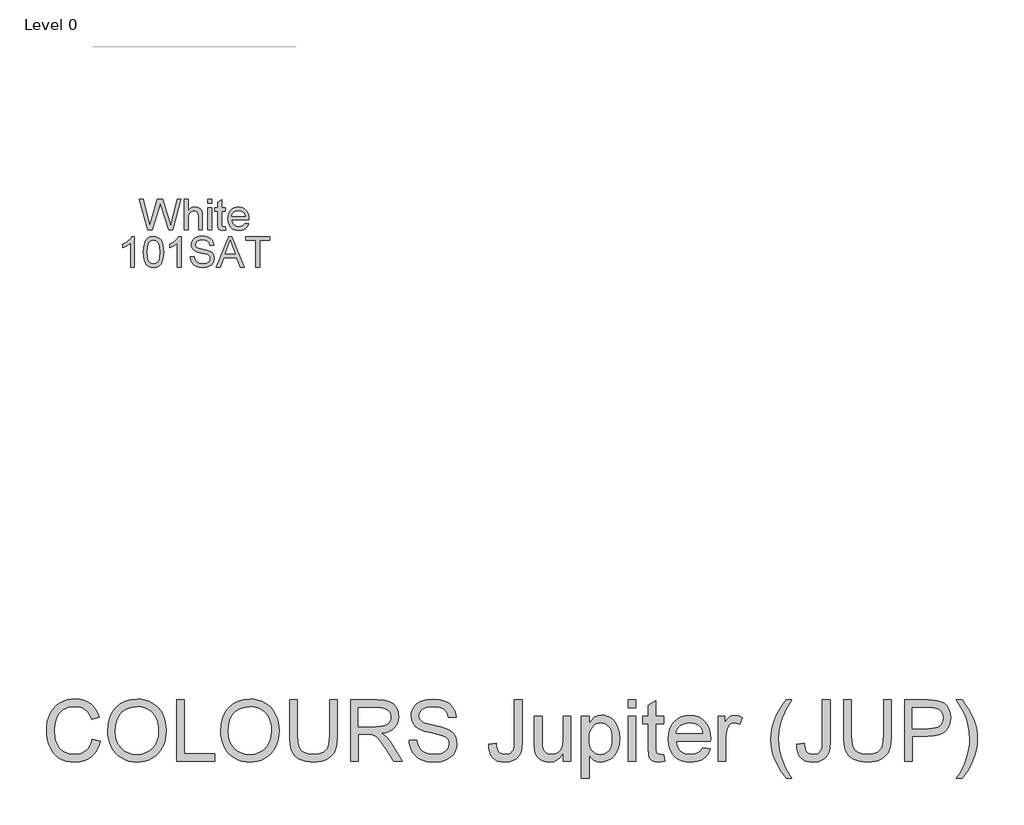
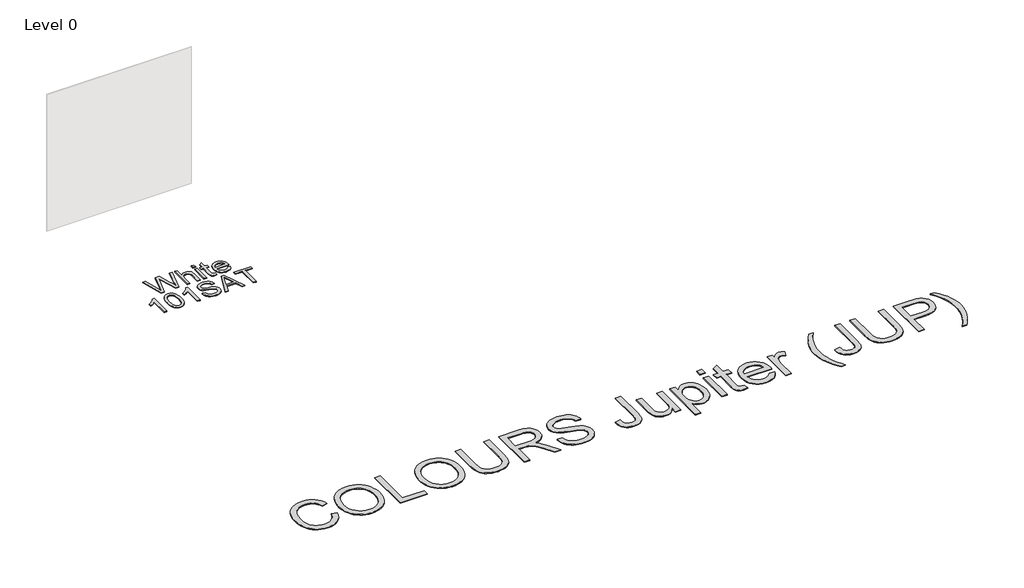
# One storey, part 26 of 37: 2 proxies.
"""IFC4 building model written with IfcOpenShell, lengths in millimetres."""

from ifc_helpers import new_model, si_unit, origin, origin_with_axes, place, context, project, spatial, polyline, outline, extrude, element, save

model = new_model("IFC4")

# Units and contexts
model_context = context("Model", 3, world=origin())
ifc_project = project(units=[si_unit("LENGTHUNIT", "METRE", prefix="MILLI")], contexts=[model_context])

# Site, building, storey
site = spatial("IfcSite", under=ifc_project)
building = spatial("IfcBuilding", under=site)
storey = spatial("IfcBuildingStorey", under=building, Name="Level 0", Elevation=0.0)

# Proxies
placement = place(None, origin())
element("IfcBuildingElementProxy", 1, Name="300mm Arial", ObjectType="300mm Arial", at=placement, inside=storey, context=model_context, shape_type="SweptSolid", body=[
    extrude(outline(polyline([(18090.0044845, -16971.860494), (18007.8196468, -16670.4915635), (18046.6679855, -16670.4915635), (18094.3454921, -16868.5592297), (18109.0607719, -16929.7012173), (18124.8061213, -16875.622564), (18184.5501573, -16670.4915635), (18240.5417969, -16670.4915635), (18283.9518724, -16819.189466), (18302.5483072, -16874.3717653), (18316.2519115, -16929.7012173), (18330.525733, -16870.3250633), (18378.6446979, -16670.4915635), (18417.4930366, -16670.4915635), (18335.2346225, -16971.860494), (18294.9883322, -16971.860494), (18222.7363084, -16739.359073), (18212.6563417, -16706.9118811), (18201.3255763, -16745.9809489), (18135.4746991, -16971.860494), (18090.0044845, -16971.860494)])), origin_with_axes(), (0.0, 0.0, 1.0), 10.0),
    extrude(outline(polyline([(18450.4552634, -16971.860494), (18450.4552634, -16670.4915635), (18488.1263797, -16670.4915635), (18488.1263797, -16781.2976205), (18501.9633412, -16765.7821973), (18517.501757, -16754.6997522), (18534.741627, -16748.0502852), (18553.6829512, -16745.8337961), (18576.4364526, -16748.2526203), (18595.9893807, -16755.5090926), (18611.3852422, -16767.0329961), (18621.6675439, -16782.2541137), (18627.4616854, -16803.1682051), (18629.3930658, -16831.7710302), (18629.3930658, -16971.860494), (18591.7219495, -16971.860494), (18591.7219495, -16835.6705794), (18588.7237113, -16812.0893435), (18579.7289965, -16795.9393239), (18565.2344459, -16786.6135153), (18545.7367001, -16783.5049125), (18529.8166068, -16785.6018398), (18514.8714007, -16791.8926219), (18502.4921716, -16801.7702535), (18494.270009, -16814.6277292), (18489.662287, -16831.7158479), (18488.1263797, -16854.2854083), (18488.1263797, -16971.860494), (18450.4552634, -16971.860494)])), origin_with_axes(), (0.0, 0.0, 1.0), 10.0),
    extrude(outline(polyline([(18681.1908508, -16708.1626798), (18681.1908508, -16670.4915635), (18718.8619671, -16670.4915635), (18718.8619671, -16708.1626798), (18681.1908508, -16708.1626798)])), origin_with_axes(), (0.0, 0.0, 1.0), 10.0),
    extrude(outline(polyline([(18681.1908508, -16971.860494), (18681.1908508, -16750.5426857), (18718.8619671, -16750.5426857), (18718.8619671, -16971.860494), (18681.1908508, -16971.860494)])), origin_with_axes(), (0.0, 0.0, 1.0), 10.0),
    extrude(outline(polyline([(18855.4197637, -16940.4433716), (18860.1286532, -16972.96414), (18831.9488924, -16976.5693835), (18813.8674923, -16975.005885), (18800.3846172, -16970.3153896), (18790.8564735, -16963.0865084), (18784.6392678, -16953.9078526), (18781.2179653, -16938.1441091), (18780.0775311, -16911.1599648), (18780.0775311, -16788.213802), (18751.8241938, -16788.213802), (18751.8241938, -16750.5426857), (18780.0775311, -16750.5426857), (18780.0775311, -16696.758338), (18817.7486474, -16674.6118419), (18817.7486474, -16750.5426857), (18855.4197637, -16750.5426857), (18855.4197637, -16788.213802), (18817.7486474, -16788.213802), (18817.7486474, -16910.0563188), (18819.7352101, -16929.4804881), (18826.1731451, -16936.3598814), (18839.0122267, -16938.8982672), (18855.4197637, -16940.4433716)])), origin_with_axes(), (0.0, 0.0, 1.0), 10.0),
    extrude(outline(polyline([(19048.0427764, -16905.9360404), (19084.9781287, -16910.64493), (19071.6699975, -16938.4752029), (19050.4340093, -16959.2789297), (19021.7484107, -16972.2467701), (18986.0914484, -16976.5693835), (18962.7171461, -16974.7046817), (18941.8904266, -16969.1105761), (18923.61129, -16959.7870668), (18907.8797362, -16946.7341537), (18895.2291941, -16930.3151204), (18886.1930926, -16910.8932503), (18880.7714317, -16888.4685435), (18878.9642114, -16863.0409998), (18880.7898258, -16836.7512327), (18886.266669, -16813.5792656), (18895.394741, -16793.5250983), (18908.1740418, -16776.5887309), (18923.8642089, -16763.133447), (18941.7248797, -16753.5225298), (18961.7560544, -16747.7559796), (18983.9577328, -16745.8337961), (19005.4443406, -16747.751381), (19024.8754077, -16753.5041357), (19042.2509342, -16763.0920602), (19057.57092, -16776.5151545), (19070.0766086, -16793.4147337), (19079.0092433, -16813.4321128), (19084.3688241, -16836.5672917), (19086.1553511, -16862.8202706), (19085.9346219, -16872.9738137), (18916.6353277, -16872.9738137), (18923.156036, -16901.1719686), (18938.3035772, -16921.902119), (18960.1649648, -16934.6492302), (18986.8272124, -16938.8982672), (19006.8767811, -16936.9300985), (19023.7625647, -16931.0255925), (19037.4845631, -16920.8168672), (19048.0427764, -16905.9360404)]), holes=[polyline([(18916.6353277, -16835.3026974), (19048.4842347, -16835.3026974), (19043.3890691, -16815.4002814), (19033.4010729, -16801.1632482), (19011.4385178, -16787.9194964), (18983.81058, -16783.5049125), (18958.4175253, -16787.0273826), (18937.4206604, -16797.5947929), (18922.8249422, -16814.0667092), (18916.6353277, -16835.3026974)])]), origin_with_axes(), (0.0, 0.0, 1.0), 10.0),
    extrude(outline(polyline([(17958.3763066, -17337.7849475), (17920.7051903, -17337.7849475), (17920.7051903, -17102.9290818), (17885.0206368, -17128.3497277), (17845.3629577, -17147.3692268), (17845.3629577, -17111.7582497), (17874.9498672, -17095.6634124), (17900.5820452, -17076.5151545), (17920.7879638, -17056.1528861), (17934.096095, -17036.4160171), (17958.3763066, -17036.4160171), (17958.3763066, -17337.7849475)])), origin_with_axes(), (0.0, 0.0, 1.0), 10.0),
    extrude(outline(polyline([(18047.8452079, -17189.5285035), (18050.6135199, -17141.2899768), (18058.9184559, -17102.8187172), (18072.6772425, -17073.5261133), (18091.8071063, -17052.8235541), (18116.4460029, -17040.5179013), (18146.7318882, -17036.4160171), (18169.9452421, -17038.8440382), (18190.7305748, -17046.1281017), (18208.1129991, -17057.983099), (18221.1176276, -17074.1239216), (18230.9400769, -17094.4126136), (18238.7759634, -17118.7112194), (18243.9079172, -17149.5673217), (18245.6185685, -17189.5285035), (18242.8778476, -17237.4911186), (18234.655685, -17275.8704077), (18220.9796718, -17305.1906027), (18201.8773992, -17325.9759355), (18177.1833203, -17338.3643617), (18146.7318882, -17342.4938371), (18125.9833436, -17340.7004123), (18107.5892439, -17335.3201381), (18091.5495889, -17326.3530145), (18077.8643787, -17313.7990414), (18064.7309914, -17291.1053209), (18055.3500006, -17262.828991), (18049.721406, -17228.9700519), (18047.8452079, -17189.5285035)]), holes=[polyline([(18085.5163242, -17189.4549271), (18089.9309081, -17248.7115194), (18095.449138, -17268.9795181), (18103.1746599, -17283.0073184), (18122.8931349, -17299.3688702), (18146.7318882, -17304.8227207), (18170.5706415, -17299.3504761), (18190.2891164, -17282.933742), (18198.0146383, -17268.8829491), (18203.5328682, -17248.6195489), (18207.9474522, -17189.4549271), (18203.680021, -17131.5319069), (18198.3457321, -17111.3305869), (18190.8777276, -17096.9693935), (18171.1960409, -17079.8076984), (18146.2904298, -17074.0871334), (18122.7091939, -17079.1271167), (18103.7632711, -17094.2470667), (18095.7802318, -17109.8820515), (18090.0780609, -17130.9616898), (18085.5163242, -17189.4549271)])]), origin_with_axes(), (0.0, 0.0, 1.0), 10.0),
    extrude(outline(polyline([(18419.8474814, -17337.7849475), (18382.1763651, -17337.7849475), (18382.1763651, -17102.9290818), (18346.4918116, -17128.3497277), (18306.8341325, -17147.3692268), (18306.8341325, -17111.7582497), (18336.4210419, -17095.6634124), (18362.0532199, -17076.5151545), (18382.2591385, -17056.1528861), (18395.5672697, -17036.4160171), (18419.8474814, -17036.4160171), (18419.8474814, -17337.7849475)])), origin_with_axes(), (0.0, 0.0, 1.0), 10.0),
    extrude(outline(polyline([(18509.3163826, -17234.1893777), (18546.9874989, -17234.1893777), (18551.3101124, -17255.0942721), (18559.1276048, -17271.8972822), (18571.3228929, -17285.2330045), (18588.7788936, -17295.7360355), (18610.1160493, -17302.5510494), (18633.9548026, -17304.8227207), (18654.9424704, -17303.1028724), (18673.3181761, -17297.9433274), (18688.2081998, -17289.7763471), (18698.7388219, -17279.0341929), (18705.0020129, -17266.700949), (18707.0897432, -17253.7606998), (18705.5262447, -17241.1515444), (18700.8357493, -17230.2530403), (18691.3076056, -17220.9548229), (18675.2311624, -17213.1465276), (18620.379957, -17198.7623415), (18584.3735067, -17189.2433949), (18561.3348967, -17180.1843008), (18542.582112, -17167.510766), (18529.292375, -17152.1516928), (18521.373715, -17134.4381747), (18518.7341617, -17114.7013056), (18521.9991144, -17092.637583), (18531.7939725, -17072.0637824), (18547.8612187, -17054.6261758), (18569.9433354, -17041.9710352), (18596.4492332, -17034.2731044), (18625.7878223, -17031.7071275), (18657.5728267, -17034.3926661), (18685.3847055, -17042.4492818), (18708.2301774, -17055.7114277), (18725.115961, -17074.013557), (18735.8029329, -17096.2152354), (18740.05197, -17121.1760288), (18702.3808537, -17121.1760288), (18695.4646722, -17098.6984389), (18681.043698, -17082.4748429), (18658.5109258, -17072.6523936), (18627.2593503, -17069.3782438), (18595.2720108, -17072.6156054), (18573.3278498, -17082.3276901), (18560.6359209, -17096.6199056), (18556.405278, -17113.5976597), (18559.4035163, -17128.0738162), (18568.398231, -17139.7172813), (18589.6618104, -17150.1283418), (18629.9081006, -17160.7601314), (18671.4419779, -17170.8584922), (18696.5683182, -17179.669266), (18718.0434296, -17193.3360821), (18733.0254239, -17210.2034716), (18741.8270006, -17230.0874934), (18744.7608595, -17252.8042066), (18741.3855422, -17276.0267576), (18731.2595903, -17297.869751), (18714.796871, -17316.668521), (18692.4112516, -17330.7584014), (18665.4914866, -17339.5599781), (18635.4263306, -17342.4938371), (18598.5185694, -17339.3300519), (18568.1407136, -17329.8386964), (18543.9432754, -17313.9829824), (18525.5767668, -17291.7261217), (18513.7861489, -17264.6132187), (18509.3163826, -17234.1893777)])), origin_with_axes(), (0.0, 0.0, 1.0), 10.0),
    extrude(outline(polyline([(18766.1715916, -17337.7849475), (18886.4690041, -17036.4160171), (18918.5483141, -17036.4160171), (19038.8457265, -17337.7849475), (18999.0408946, -17337.7849475), (18964.5335634, -17243.6071568), (18840.4101783, -17243.6071568), (18805.9764235, -17337.7849475), (18766.1715916, -17337.7849475)]), holes=[polyline([(18854.2425413, -17205.9360404), (18950.7747768, -17205.9360404), (18923.6250856, -17131.8446066), (18902.5086591, -17074.0871334), (18883.7466773, -17125.3698835), (18854.2425413, -17205.9360404)])]), origin_with_axes(), (0.0, 0.0, 1.0), 10.0),
    extrude(outline(polyline([(19154.4342494, -17337.7849475), (19154.4342494, -17074.0871334), (19055.5475691, -17074.0871334), (19055.5475691, -17036.4160171), (19290.992046, -17036.4160171), (19290.992046, -17074.0871334), (19192.1053657, -17074.0871334), (19192.1053657, -17337.7849475), (19154.4342494, -17337.7849475)])), origin_with_axes(), (0.0, 0.0, 1.0), 10.0),
])
element("IfcBuildingElementProxy", 2, Name="600mm Arial", ObjectType="600mm Arial", at=placement, inside=storey, context=model_context, shape_type="SweptSolid", body=[
    extrude(outline(polyline([(17546.3368732, -21986.6175733), (17621.6791058, -22006.0417427), (17606.770688, -22052.8961133), (17586.9142573, -22093.8367808), (17562.1098137, -22128.8637453), (17532.3573574, -22157.9770067), (17498.3282728, -22180.8638653), (17460.6939447, -22197.2116215), (17419.4543731, -22207.0202752), (17374.6095579, -22210.2898264), (17328.6656952, -22207.81582), (17287.2191899, -22200.3938007), (17250.270042, -22188.0237686), (17217.8182515, -22170.7057237), (17189.4177615, -22148.6971834), (17164.622515, -22122.255665), (17143.4325121, -22091.3811685), (17125.8477527, -22056.073694), (17112.0383823, -22017.8599518), (17102.1745463, -21978.266652), (17096.2562447, -21937.2937948), (17094.2834775, -21894.9413801), (17096.5137621, -21849.4987567), (17103.2046159, -21807.0543715), (17114.3560389, -21767.6082246), (17129.9680311, -21731.1603159), (17149.6911045, -21698.3130522), (17173.1757714, -21669.6688404), (17200.4220317, -21645.2276803), (17231.4298853, -21624.9895721), (17265.1462702, -21609.1200625), (17300.518124, -21597.7846985), (17337.5454468, -21590.9834801), (17376.2282386, -21588.7164074), (17419.3210158, -21591.6502663), (17458.8361406, -21600.451843), (17494.7736131, -21615.1211376), (17527.1334331, -21635.6581499), (17555.3821718, -21661.5202542), (17578.9864003, -21692.1648244), (17597.9461186, -21727.5918605), (17612.2613267, -21767.8013626), (17536.9190941, -21785.754004), (17525.0548998, -21756.1257078), (17510.7994725, -21730.810828), (17494.1528122, -21709.8093646), (17475.1149189, -21693.1213176), (17453.5754281, -21680.4063961), (17429.4239751, -21671.3243094), (17402.66056, -21665.8750573), (17373.2851827, -21664.05864), (17339.4860244, -21666.0727939), (17308.5747397, -21672.1152557), (17280.5513287, -21682.1860253), (17255.4157914, -21696.2851027), (17233.485426, -21713.7778916), (17215.0775306, -21734.0297954), (17200.1921054, -21757.0408142), (17188.8291503, -21782.810948), (17174.4265702, -21837.9564591), (17169.6257101, -21894.7942273), (17175.309487, -21964.3975008), (17182.414208, -21995.6674704), (17192.3608174, -22024.5829952), (17205.3102637, -22050.5692597), (17221.4234951, -22073.0514481), (17240.7005116, -22092.0295605), (17263.1413133, -22107.503597), (17287.6560498, -22119.5103456), (17313.1548706, -22128.0865946), (17339.6377757, -22133.232344), (17367.1047652, -22134.9475938), (17399.8600583, -22132.6115431), (17429.9941922, -22125.6033911), (17457.5071669, -22113.9231378), (17482.3989824, -22097.5707831), (17504.0810275, -22076.6199035), (17521.964691, -22051.1440753), (17536.0499729, -22021.1432986), (17546.3368732, -21986.6175733)])), origin_with_axes(), (0.0, 0.0, 1.0), 10.0),
    extrude(outline(polyline([(17697.0213384, -21907.449368), (17702.0429277, -21836.7516456), (17717.1076954, -21774.1657211), (17742.2156415, -21719.6915947), (17758.5358065, -21695.4964557), (17777.3667662, -21673.3292662), (17820.4549449, -21636.3111405), (17869.3740532, -21609.8696221), (17924.1240911, -21594.004711), (17984.7050587, -21588.7164074), (18025.2548516, -21591.1996108), (18063.7628994, -21598.6492212), (18100.2292022, -21611.0652386), (18134.6537599, -21628.4476628), (18166.0708823, -21650.2722622), (18193.5148791, -21676.0148048), (18216.9857504, -21705.6752907), (18236.4834962, -21739.2537198), (18251.8057813, -21775.986737), (18262.7502706, -21815.1109872), (18269.3169642, -21856.6264703), (18271.5058621, -21900.5331865), (18269.2020011, -21945.0193167), (18262.2904181, -21987.0958199), (18250.7711131, -22026.7626961), (18234.6440862, -22064.0199451), (18214.2910148, -22097.8834828), (18190.0935766, -22127.3692247), (18162.0517715, -22152.4771709), (18130.1655995, -22173.2073213), (18095.6904581, -22189.4309173), (18059.8817444, -22201.0192001), (18022.7394584, -22207.9721698), (17984.2636003, -22210.2898264), (17943.0056345, -22207.728448), (17903.9917489, -22200.0443128), (17867.2219435, -22187.2374209), (17832.6962182, -22169.3077721), (17801.3158841, -22146.9497439), (17773.9822518, -22120.8577134), (17750.6953215, -22091.0316806), (17731.4550932, -22057.4716456), (17716.3903255, -22021.5249762), (17705.6297771, -21984.5390401), (17699.1734481, -21946.5138373), (17697.0213384, -21907.449368)]), holes=[polyline([(17772.363571, -21908.185132), (17776.129763, -21958.1343099), (17787.4283387, -22002.4732873), (17806.2592984, -22041.2020644), (17832.6226418, -22074.320641), (17864.6697622, -22100.8449328), (17900.5520523, -22119.7908556), (17940.2695122, -22131.1584092), (17983.8221419, -22134.9475938), (18028.1197326, -22131.121621), (18068.3062421, -22119.6437028), (18104.3816702, -22100.513839), (18136.3460171, -22073.7320298), (18162.5162225, -22039.9144774), (18181.2092264, -21999.6773842), (18192.4250287, -21953.0207501), (18196.1636295, -21899.9445753), (18194.5633428, -21865.4648353), (18189.7624828, -21833.2475695), (18181.7610494, -21803.2927781), (18170.5590426, -21775.6004609), (18156.2806227, -21750.5339015), (18139.0499497, -21728.4563832), (18118.8670238, -21709.3679062), (18095.7318448, -21693.2684704), (18070.3617827, -21680.4891696), (18043.4742074, -21671.3610976), (18015.0691188, -21665.8842544), (17985.146517, -21664.05864), (17943.1068021, -21667.5765115), (17904.1021135, -21678.1301263), (17868.1324514, -21695.7194842), (17835.1978158, -21720.3445852), (17807.7078337, -21753.1918489), (17788.0721322, -21795.4476945), (17776.2907113, -21847.1121222), (17772.363571, -21908.185132)])]), origin_with_axes(), (0.0, 0.0, 1.0), 10.0),
    extrude(outline(polyline([(18375.1014319, -22200.8720473), (18375.1014319, -21598.1341864), (18450.4436645, -21598.1341864), (18450.4436645, -22125.5298147), (18751.812595, -22125.5298147), (18751.812595, -22200.8720473), (18375.1014319, -22200.8720473)])), origin_with_axes(), (0.0, 0.0, 1.0), 10.0),
    extrude(outline(polyline([(18808.3192695, -21907.449368), (18813.3408587, -21836.7516456), (18828.4056264, -21774.1657211), (18853.5135726, -21719.6915947), (18869.8337376, -21695.4964557), (18888.6646972, -21673.3292662), (18931.7528759, -21636.3111405), (18980.6719842, -21609.8696221), (19035.4220221, -21594.004711), (19096.0029897, -21588.7164074), (19136.5527826, -21591.1996108), (19175.0608304, -21598.6492212), (19211.5271332, -21611.0652386), (19245.9516909, -21628.4476628), (19277.3688133, -21650.2722622), (19304.8128101, -21676.0148048), (19328.2836814, -21705.6752907), (19347.7814272, -21739.2537198), (19363.1037123, -21775.986737), (19374.0482016, -21815.1109872), (19380.6148953, -21856.6264703), (19382.8037931, -21900.5331865), (19380.4999321, -21945.0193167), (19373.5883491, -21987.0958199), (19362.0690442, -22026.7626961), (19345.9420172, -22064.0199451), (19325.5889458, -22097.8834828), (19301.3915076, -22127.3692247), (19273.3497025, -22152.4771709), (19241.4635306, -22173.2073213), (19206.9883891, -22189.4309173), (19171.1796754, -22201.0192001), (19134.0373895, -22207.9721698), (19095.5615313, -22210.2898264), (19054.3035655, -22207.728448), (19015.2896799, -22200.0443128), (18978.5198745, -22187.2374209), (18943.9941493, -22169.3077721), (18912.6138151, -22146.9497439), (18885.2801828, -22120.8577134), (18861.9932526, -22091.0316806), (18842.7530242, -22057.4716456), (18827.6882565, -22021.5249762), (18816.9277081, -21984.5390401), (18810.4713791, -21946.5138373), (18808.3192695, -21907.449368)]), holes=[polyline([(18883.6615021, -21908.185132), (18887.427694, -21958.1343099), (18898.7262698, -22002.4732873), (18917.5572294, -22041.2020644), (18943.9205729, -22074.320641), (18975.9676932, -22100.8449328), (19011.8499833, -22119.7908556), (19051.5674432, -22131.1584092), (19095.1200729, -22134.9475938), (19139.4176636, -22131.121621), (19179.6041731, -22119.6437028), (19215.6796012, -22100.513839), (19247.6439481, -22073.7320298), (19273.8141535, -22039.9144774), (19292.5071574, -21999.6773842), (19303.7229597, -21953.0207501), (19307.4615605, -21899.9445753), (19305.8612738, -21865.4648353), (19301.0604138, -21833.2475695), (19293.0589804, -21803.2927781), (19281.8569736, -21775.6004609), (19267.5785537, -21750.5339015), (19250.3478808, -21728.4563832), (19230.1649548, -21709.3679062), (19207.0297758, -21693.2684704), (19181.6597137, -21680.4891696), (19154.7721384, -21671.3610976), (19126.3670499, -21665.8842544), (19096.4444481, -21664.05864), (19054.4047331, -21667.5765115), (19015.4000445, -21678.1301263), (18979.4303825, -21695.7194842), (18946.4957468, -21720.3445852), (18919.0057648, -21753.1918489), (18899.3700633, -21795.4476945), (18887.5886424, -21847.1121222), (18883.6615021, -21908.185132)])]), origin_with_axes(), (0.0, 0.0, 1.0), 10.0),
    extrude(outline(polyline([(19881.9460842, -21598.1341864), (19957.2883168, -21598.1341864), (19957.2883168, -21945.8562483), (19952.1747571, -22027.2869279), (19945.7828074, -22060.9803201), (19936.8340779, -22089.992414), (19924.5560163, -22115.4222569), (19908.1760704, -22138.3688963), (19887.6942404, -22158.8323323), (19863.110526, -22176.8125648), (19834.3973363, -22191.4588668), (19801.52708, -22201.920511), (19764.4997572, -22208.1974976), (19723.3153679, -22210.2898264), (19683.1472525, -22208.4688105), (19646.814307, -22203.0057629), (19614.3165312, -22193.9006835), (19585.6539253, -22181.1535724), (19560.8218906, -22164.952969), (19539.8158287, -22145.487413), (19522.6357395, -22122.7569042), (19509.2816231, -22096.7614427), (19499.2706343, -22066.6089147), (19492.119928, -22031.4072063), (19487.8295042, -21991.1563175), (19486.399363, -21945.8562483), (19486.399363, -21598.1341864), (19561.7415956, -21598.1341864), (19561.7415956, -21943.2074979), (19565.4572037, -22010.9161791), (19576.6040282, -22058.0602568), (19585.3688167, -22075.4380825), (19596.8007497, -22090.7097839), (19610.8998272, -22103.8753608), (19627.6660491, -22114.9348133), (19667.9123394, -22129.9443987), (19716.2520336, -22134.9475938), (19757.7767138, -22132.4735874), (19792.8818531, -22125.0515681), (19821.5674517, -22112.681536), (19843.8335095, -22095.3634911), (19860.5077609, -22071.009703), (19872.4179405, -22037.5324415), (19879.5640483, -21994.9317064), (19881.9460842, -21943.2074979), (19881.9460842, -21598.1341864)])), origin_with_axes(), (0.0, 0.0, 1.0), 10.0),
    extrude(outline(polyline([(20089.1372239, -22200.8720473), (20089.1372239, -21598.1341864), (20348.8619125, -21598.1341864), (20418.667521, -21602.1992825), (20469.4536305, -21614.3945706), (20489.0525438, -21624.0882612), (20506.5729238, -21636.9089487), (20522.0147705, -21652.8566332), (20535.378084, -21671.9313147), (20546.161625, -21693.107522), (20553.8641543, -21715.3597842), (20558.4856718, -21738.6881012), (20560.0261777, -21763.0924731), (20557.4739963, -21794.049743), (20549.8174523, -21822.4686271), (20537.0565456, -21848.3491255), (20519.1912762, -21871.691238), (20495.9917179, -21891.7500038), (20467.2279444, -21907.7804618), (20432.8999557, -21919.7826119), (20393.0077519, -21927.7564541), (20417.8397866, -21943.9800501), (20435.8292161, -21959.9829169), (20466.6945155, -21996.5871754), (20496.8976273, -22037.5324415), (20597.4029884, -22200.8720473), (20509.8470735, -22200.8720473), (20431.4146322, -22075.9393218), (20374.7608049, -21993.2394493), (20353.6995607, -21969.1247845), (20334.955973, -21954.1703814), (20299.1242667, -21939.8229836), (20255.4198857, -21937.1742332), (20164.4794565, -21937.1742332), (20164.4794565, -22200.8720473), (20089.1372239, -22200.8720473)]), holes=[polyline([(20164.4794565, -21861.8320006), (20333.1165631, -21861.8320006), (20381.5482277, -21859.1648561), (20419.1273735, -21851.1634227), (20447.417499, -21837.2942715), (20467.9821025, -21817.0239736), (20480.5084844, -21792.5046386), (20484.6839451, -21765.8883762), (20482.6927838, -21746.6205567), (20476.7192999, -21729.1369649), (20466.7634934, -21713.4376008), (20452.8253643, -21699.5224643), (20434.5830159, -21688.1273195), (20411.7145513, -21679.9879304), (20384.2199707, -21675.1042969), (20352.099274, -21673.476419), (20164.4794565, -21673.476419), (20164.4794565, -21861.8320006)])]), origin_with_axes(), (0.0, 0.0, 1.0), 10.0),
    extrude(outline(polyline([(20663.6217475, -21993.6809076), (20738.9639801, -21993.6809076), (20747.609207, -22035.4906964), (20763.2441918, -22069.0967167), (20787.6347681, -22095.7681613), (20822.5467694, -22116.7742232), (20865.2210809, -22130.4042512), (20912.8985875, -22134.9475938), (20954.8739231, -22131.5078971), (20991.6253344, -22121.1888072), (21021.4053819, -22104.8548466), (21042.4666262, -22083.3705381), (21054.9930081, -22058.7040503), (21059.1684687, -22032.8235519), (21056.0414718, -22007.6052412), (21046.6604809, -21985.8082329), (21027.6041936, -21967.2117981), (20995.4513072, -21951.5952074), (20885.7488962, -21922.8268354), (20813.7359957, -21903.7889421), (20767.6587758, -21885.6707539), (20730.1532064, -21860.3236844), (20703.5737322, -21829.6055378), (20687.7364123, -21794.1785017), (20682.4573057, -21754.7047636), (20684.089782, -21732.2685604), (20688.9872111, -21710.5773183), (20697.1495929, -21689.6310372), (20708.5769273, -21669.4297171), (20723.1404558, -21650.796494), (20740.7114196, -21634.554504), (20761.2898187, -21620.7037468), (20784.8756531, -21609.2442227), (20837.8874486, -21593.8483612), (20896.5646269, -21588.7164074), (20960.1346356, -21594.0874845), (21015.7583933, -21610.2007159), (21040.0937873, -21622.202866), (21061.4493371, -21636.7250077), (21079.8250428, -21653.7671412), (21095.2209043, -21673.3292662), (21107.51736, -21694.8411659), (21116.5948482, -21717.7326231), (21122.453369, -21742.0036377), (21125.0929223, -21767.6542098), (21049.7506897, -21767.6542098), (21044.7107063, -21743.6131214), (21035.9183267, -21722.69903), (21023.3735506, -21704.9119355), (21007.0763782, -21690.251838), (20986.7233068, -21678.7923139), (20962.0108338, -21670.6069395), (20932.9389592, -21665.6957148), (20899.5076828, -21664.05864), (20865.0095487, -21665.6773207), (20835.5330039, -21670.5333631), (20811.0780482, -21678.626767), (20791.6446819, -21689.9575324), (20776.8374315, -21703.5783633), (20766.2608242, -21718.5419635), (20759.9148598, -21734.8483329), (20757.7995383, -21752.4974716), (20759.2986574, -21767.681801), (20763.7960148, -21781.4497846), (20771.2916105, -21793.8014226), (20781.7854444, -21804.7367149), (20798.303346, -21815.0925931), (20824.312603, -21825.5588358), (20904.8051836, -21846.8224152), (20987.8729381, -21867.0191367), (21038.1256186, -21884.6406843), (21081.0758416, -21911.9743165), (21097.6811151, -21928.0415627), (21111.0398301, -21945.7090955), (21121.3083363, -21964.8849445), (21128.6429835, -21985.4771392), (21134.5107014, -22030.9105656), (21132.8230427, -22054.4780059), (21127.7600667, -22077.3556674), (21119.3217735, -22099.5435503), (21107.5081629, -22121.0416544), (21092.5261687, -22141.0176467), (21074.5827243, -22158.6391943), (21053.67783, -22173.9062971), (21029.8114855, -22186.8189551), (21003.6780683, -22197.0874613), (20975.9719555, -22204.4221086), (20915.8416434, -22210.2898264), (20877.3014059, -22208.7079338), (20842.0261211, -22203.9622561), (20810.015789, -22196.0527932), (20781.2704096, -22184.9795451), (20755.615239, -22170.7241178), (20732.8755331, -22153.2681172), (20713.0512921, -22132.6115431), (20696.1425159, -22108.7543957), (20682.521685, -22082.4692272), (20672.56128, -22054.5285896), (20666.2613008, -22024.9324831), (20663.6217475, -21993.6809076)])), origin_with_axes(), (0.0, 0.0, 1.0), 10.0),
    extrude(outline(polyline([(21445.2974109, -22031.6463295), (21520.6396435, -22021.9342449), (21523.2975909, -22051.8890363), (21528.47553, -22076.711874), (21536.1734607, -22096.4027577), (21546.3913832, -22110.9616877), (21558.9729474, -22121.4555216), (21573.7618036, -22128.9511173), (21590.7579518, -22133.4484747), (21609.9613919, -22134.9475938), (21637.7916649, -22131.5446853), (21661.5384476, -22121.33596), (21679.858971, -22105.2595168), (21691.4104657, -22084.2534549), (21697.5357009, -22053.848008), (21699.577446, -22009.5734098), (21699.577446, -21598.1341864), (21774.9196786, -21598.1341864), (21774.9196786, -22008.2490347), (21770.3763359, -22075.3323165), (21764.6971576, -22102.4590151), (21756.746308, -22125.3090855), (21746.3260505, -22144.7930357), (21733.2386485, -22161.8213735), (21717.4841021, -22176.3940991), (21699.0624112, -22188.5112123), (21656.1489764, -22204.8451729), (21606.4297248, -22210.2898264), (21569.3012344, -22207.4801277), (21536.7896631, -22199.0510315), (21508.8950108, -22185.0025378), (21485.6172776, -22165.3346466), (21467.3703306, -22140.1209344), (21454.5680372, -22109.4349774), (21447.2103973, -22073.2767758), (21445.2974109, -22031.6463295)])), origin_with_axes(), (0.0, 0.0, 1.0), 10.0),
    extrude(outline(polyline([(22179.8841789, -22200.8720473), (22179.8841789, -22124.7940507), (22152.624123, -22162.1984526), (22120.8759068, -22188.9158825), (22084.6395303, -22204.9463404), (22043.9149934, -22210.2898264), (22007.2187644, -22206.5374301), (21973.0609212, -22195.280241), (21944.4029137, -22178.3576692), (21924.2061922, -22157.6091247), (21910.6129525, -22132.409208), (21901.7653905, -22102.1325198), (21897.3508066, -22032.0877879), (21897.3508066, -21758.2364307), (21972.6930392, -21758.2364307), (21972.6930392, -21996.6239636), (21973.8334734, -22044.3014702), (21977.2547759, -22073.4377242), (21988.2360535, -22099.0607052), (22007.0532175, -22118.5400568), (22032.4554693, -22130.8457095), (22063.19201, -22134.9475938), (22095.6943843, -22130.753739), (22126.0998312, -22118.1721748), (22151.1709891, -22098.3617294), (22167.6704966, -22072.481231), (22176.8307583, -22037.0358008), (22179.8841789, -21988.5305597), (22179.8841789, -21758.2364307), (22255.2264115, -21758.2364307), (22255.2264115, -22200.8720473), (22179.8841789, -22200.8720473)])), origin_with_axes(), (0.0, 0.0, 1.0), 10.0),
    extrude(outline(polyline([(22358.8219813, -22370.3920707), (22358.8219813, -21758.2364307), (22434.1642139, -21758.2364307), (22434.1642139, -21832.1071354), (22458.7387312, -21795.6684237), (22486.2563044, -21769.6407726), (22518.3356144, -21754.0241819), (22556.5953419, -21748.8186517), (22582.8713134, -21750.6396675), (22607.5469982, -21756.1027152), (22630.6223964, -21765.2077945), (22652.0975079, -21777.9549057), (22671.5032831, -21794.0129548), (22688.3706726, -21813.050848), (22702.6996763, -21835.0685854), (22714.4902942, -21860.066167), (22730.2724318, -21915.5795601), (22735.5331444, -21976.1697247), (22729.5918501, -22040.6042561), (22722.1652324, -22070.2693405), (22711.7679675, -22098.2329707), (22698.5426098, -22123.7639811), (22682.6317135, -22146.1312064), (22664.0352786, -22165.3346466), (22642.7533052, -22181.3743016), (22619.8296584, -22194.0248437), (22596.3082033, -22203.0609452), (22572.18894, -22208.4826061), (22547.4718684, -22210.2898264), (22512.8357786, -22205.4521782), (22481.9152969, -22190.9392335), (22455.4461873, -22169.0318606), (22434.1642139, -22142.0109281), (22434.1642139, -22370.3920707), (22358.8219813, -22370.3920707)]), holes=[polyline([(22434.1642139, -21983.0859062), (22436.2013605, -22019.3958591), (22442.3128001, -22050.6290405), (22452.4985329, -22076.7854504), (22466.7585587, -22097.8650887), (22483.9248523, -22114.0886847), (22502.8293883, -22125.6769675), (22523.4721668, -22132.6299372), (22545.8531877, -22134.9475938), (22568.5561053, -22132.5471638), (22589.5759628, -22125.3458737), (22608.9127602, -22113.3437236), (22626.5664974, -22096.5407135), (22641.2771787, -22074.69772), (22651.7848082, -22047.5756199), (22658.0893859, -22015.1744132), (22660.1909118, -21977.4940999), (22658.1399696, -21941.4968466), (22651.9871433, -21910.3188475), (22641.7324326, -21883.9601026), (22627.3758378, -21862.4206118), (22610.1681575, -21845.681981), (22591.3601905, -21833.7258161), (22570.9519368, -21826.5521172), (22548.9433964, -21824.1608843), (22527.0038339, -21826.7038686), (22506.3610555, -21834.3328214), (22487.0150611, -21847.0477429), (22468.9658507, -21864.8486329), (22453.7401346, -21887.4963683), (22442.8646231, -21914.7518256), (22436.3393162, -21946.6150049), (22434.1642139, -21983.0859062)])]), origin_with_axes(), (0.0, 0.0, 1.0), 10.0),
    extrude(outline(polyline([(22820.2931561, -21673.476419), (22820.2931561, -21598.1341864), (22895.6353887, -21598.1341864), (22895.6353887, -21673.476419), (22820.2931561, -21673.476419)])), origin_with_axes(), (0.0, 0.0, 1.0), 10.0),
    extrude(outline(polyline([(22820.2931561, -22200.8720473), (22820.2931561, -21758.2364307), (22895.6353887, -21758.2364307), (22895.6353887, -22200.8720473), (22820.2931561, -22200.8720473)])), origin_with_axes(), (0.0, 0.0, 1.0), 10.0),
    extrude(outline(polyline([(23168.7509819, -22138.0378026), (23178.168761, -22203.0793393), (23121.8092393, -22210.2898264), (23085.6464392, -22207.1628294), (23058.6806889, -22197.7818386), (23039.6244016, -22183.3240762), (23027.1899901, -22164.9667646), (23020.347385, -22133.4392776), (23018.0665167, -22079.4709889), (23018.0665167, -21833.5786633), (22961.5598422, -21833.5786633), (22961.5598422, -21758.2364307), (23018.0665167, -21758.2364307), (23018.0665167, -21650.6677353), (23093.4087493, -21606.3747431), (23093.4087493, -21758.2364307), (23168.7509819, -21758.2364307), (23168.7509819, -21833.5786633), (23093.4087493, -21833.5786633), (23093.4087493, -22077.2636969), (23097.3818748, -22116.1120356), (23110.2577447, -22129.8708223), (23121.1286576, -22133.6784009), (23135.9359079, -22134.9475938), (23168.7509819, -22138.0378026)])), origin_with_axes(), (0.0, 0.0, 1.0), 10.0),
    extrude(outline(polyline([(23553.9970072, -22069.0231403), (23627.8677119, -22078.4409193), (23616.5415449, -22108.0278288), (23601.2514495, -22134.1014652), (23581.9974256, -22156.6618286), (23558.7794732, -22175.7089189), (23531.8367156, -22190.8380659), (23501.408276, -22201.6445995), (23467.4941546, -22208.1285197), (23430.0943513, -22210.2898264), (23383.3457467, -22206.5604227), (23341.6923078, -22195.3722115), (23305.1340346, -22176.7251929), (23273.6709269, -22150.6193668), (23248.3698427, -22117.7813002), (23230.2976397, -22078.93756), (23219.4543179, -22034.0881463), (23215.8398773, -21983.233059), (23219.4911061, -21930.6535248), (23230.4447925, -21884.3095905), (23248.7009365, -21844.201256), (23274.2595381, -21810.3285212), (23305.6398723, -21783.4179533), (23341.361214, -21764.1961191), (23381.4235633, -21752.6630185), (23425.8269201, -21748.8186517), (23468.8001357, -21752.6538215), (23507.6622699, -21764.1593309), (23542.4133229, -21783.3351799), (23573.0532946, -21810.1813685), (23598.0646717, -21843.9805268), (23615.9299411, -21884.0152849), (23626.6491028, -21930.2856428), (23630.2221566, -21982.7916006), (23629.7806982, -22003.0986867), (23291.1821099, -22003.0986867), (23295.5461101, -22033.1638428), (23304.2235266, -22059.4949966), (23317.2143596, -22082.0921481), (23334.5186089, -22100.9552974), (23355.1797815, -22115.8269271), (23378.241384, -22126.4495197), (23403.7034166, -22132.8230753), (23431.5658792, -22134.9475938), (23471.6650167, -22131.0112564), (23505.4365839, -22119.2022444), (23532.8805807, -22098.7847937), (23553.9970072, -22069.0231403)]), holes=[polyline([(23291.1821099, -21927.7564541), (23554.879924, -21927.7564541), (23544.6895928, -21887.9516222), (23535.9248042, -21872.2982433), (23524.7136004, -21859.4775558), (23504.167391, -21844.026512), (23480.7884902, -21832.9900522), (23454.576898, -21826.3681762), (23425.5326145, -21824.1608843), (23399.0405123, -21825.9221193), (23374.7465051, -21831.2058245), (23352.6505928, -21840.0119997), (23332.7527753, -21852.3406451), (23316.0555313, -21867.6215435), (23303.561339, -21885.2844778), (23295.2701986, -21905.329448), (23291.1821099, -21927.7564541)])]), origin_with_axes(), (0.0, 0.0, 1.0), 10.0),
    extrude(outline(polyline([(23705.5643893, -22200.8720473), (23705.5643893, -21758.2364307), (23771.4888428, -21758.2364307), (23771.4888428, -21823.7194259), (23795.8426309, -21785.754004), (23818.2834326, -21763.3867787), (23840.7978107, -21752.4606834), (23865.372328, -21748.8186517), (23902.8962915, -21754.6311872), (23941.0088662, -21772.0687938), (23915.8457377, -21839.6119281), (23889.358234, -21828.0236452), (23862.8707304, -21824.1608843), (23840.3747464, -21827.8764924), (23820.2699953, -21839.0233169), (23804.0280053, -21856.755229), (23793.1203041, -21880.2261003), (23783.9600424, -21922.3118006), (23780.9066219, -21968.2234736), (23780.9066219, -22200.8720473), (23705.5643893, -22200.8720473)])), origin_with_axes(), (0.0, 0.0, 1.0), 10.0),
    extrude(outline(polyline([(24374.2267037, -22370.3920707), (24343.8120597, -22331.0378943), (24315.843831, -22288.4647504), (24290.3220176, -22242.672639), (24267.2466195, -22193.6615602), (24248.1259528, -22142.5811452), (24234.4683337, -22090.5810252), (24226.2737623, -22037.6612002), (24223.5422385, -21983.8216702), (24225.5839835, -21936.5028485), (24231.7092188, -21890.1957024), (24241.9179441, -21844.9002317), (24256.2101596, -21800.6164366), (24277.9335914, -21749.8303271), (24304.8441594, -21699.1545823), (24336.9418635, -21648.5892021), (24374.2267037, -21598.1341864), (24430.7333781, -21598.1341864), (24386.4035977, -21669.7608109), (24360.2471879, -21717.4751057), (24336.1877054, -21774.1289329), (24317.867182, -21833.1372049), (24303.6301488, -21908.5162258), (24298.8844711, -21984.2631286), (24300.9446102, -22032.561436), (24307.1250278, -22080.8505464), (24317.4257236, -22129.1304597), (24331.8466978, -22177.401176), (24350.3879504, -22225.6626953), (24373.0494813, -22273.9150175), (24399.8312905, -22322.1581426), (24430.7333781, -22370.3920707), (24374.2267037, -22370.3920707)])), origin_with_axes(), (0.0, 0.0, 1.0), 10.0),
    extrude(outline(polyline([(24477.8222735, -22031.6463295), (24553.1645061, -22021.9342449), (24555.8224536, -22051.8890363), (24561.0003926, -22076.711874), (24568.6983234, -22096.4027577), (24578.9162458, -22110.9616877), (24591.49781, -22121.4555216), (24606.2866662, -22128.9511173), (24623.2828144, -22133.4484747), (24642.4862546, -22134.9475938), (24670.3165275, -22131.5446853), (24694.0633103, -22121.33596), (24712.3838337, -22105.2595168), (24723.9353283, -22084.2534549), (24730.0605635, -22053.848008), (24732.1023086, -22009.5734098), (24732.1023086, -21598.1341864), (24807.4445412, -21598.1341864), (24807.4445412, -22008.2490347), (24802.9011986, -22075.3323165), (24797.2220203, -22102.4590151), (24789.2711706, -22125.3090855), (24778.8509131, -22144.7930357), (24765.7635112, -22161.8213735), (24750.0089647, -22176.3940991), (24731.5872738, -22188.5112123), (24688.6738391, -22204.8451729), (24638.9545874, -22210.2898264), (24601.826097, -22207.4801277), (24569.3145257, -22199.0510315), (24541.4198734, -22185.0025378), (24518.1421402, -22165.3346466), (24499.8951932, -22140.1209344), (24487.0928998, -22109.4349774), (24479.7352599, -22073.2767758), (24477.8222735, -22031.6463295)])), origin_with_axes(), (0.0, 0.0, 1.0), 10.0),
    extrude(outline(polyline([(25334.8401695, -21598.1341864), (25410.1824021, -21598.1341864), (25410.1824021, -21945.8562483), (25405.0688424, -22027.2869279), (25398.6768927, -22060.9803201), (25389.7281632, -22089.992414), (25377.4501016, -22115.4222569), (25361.0701557, -22138.3688963), (25340.5883257, -22158.8323323), (25316.0046113, -22176.8125648), (25287.2914216, -22191.4588668), (25254.4211653, -22201.920511), (25217.3938425, -22208.1974976), (25176.2094532, -22210.2898264), (25136.0413378, -22208.4688105), (25099.7083923, -22203.0057629), (25067.2106165, -22193.9006835), (25038.5480106, -22181.1535724), (25013.7159759, -22164.952969), (24992.709914, -22145.487413), (24975.5298248, -22122.7569042), (24962.1757084, -22096.7614427), (24952.1647196, -22066.6089147), (24945.0140133, -22031.4072063), (24940.7235895, -21991.1563175), (24939.2934483, -21945.8562483), (24939.2934483, -21598.1341864), (25014.6356809, -21598.1341864), (25014.6356809, -21943.2074979), (25018.351289, -22010.9161791), (25029.4981135, -22058.0602568), (25038.262902, -22075.4380825), (25049.694835, -22090.7097839), (25063.7939125, -22103.8753608), (25080.5601344, -22114.9348133), (25120.8064247, -22129.9443987), (25169.1461189, -22134.9475938), (25210.6707991, -22132.4735874), (25245.7759385, -22125.0515681), (25274.461537, -22112.681536), (25296.7275948, -22095.3634911), (25313.4018462, -22071.009703), (25325.3120258, -22037.5324415), (25332.4581336, -21994.9317064), (25334.8401695, -21943.2074979), (25334.8401695, -21598.1341864)])), origin_with_axes(), (0.0, 0.0, 1.0), 10.0),
    extrude(outline(polyline([(25542.0313092, -22200.8720473), (25542.0313092, -21598.1341864), (25765.4092566, -21598.1341864), (25817.4277708, -21599.5689262), (25855.4667691, -21603.8731456), (25895.6210888, -21614.5969057), (25928.6752861, -21632.0529064), (25955.2915485, -21657.0320939), (25976.1320635, -21690.3254144), (25989.5965445, -21729.5968174), (25994.0847048, -21772.5102521), (25991.0542769, -21809.5099838), (25981.9629931, -21843.5482654), (25966.8108534, -21874.625097), (25945.5978579, -21902.7404784), (25916.4753994, -21926.0458028), (25877.5948711, -21942.6924631), (25828.9562728, -21952.6804593), (25770.5596046, -21956.0097913), (25617.3735418, -21956.0097913), (25617.3735418, -22200.8720473), (25542.0313092, -22200.8720473)]), holes=[polyline([(25617.3735418, -21880.6675587), (25774.9741885, -21880.6675587), (25811.210565, -21878.9385133), (25841.7815588, -21873.7513772), (25866.6871699, -21865.1061503), (25885.9273983, -21853.0028327), (25900.2839931, -21837.763321), (25910.5387037, -21819.7095121), (25916.6915301, -21798.8414059), (25918.7424722, -21775.1590025), (25913.904824, -21741.313859), (25899.3918793, -21712.7662161), (25877.0062599, -21691.2819076), (25848.5505876, -21678.626767), (25819.4879099, -21674.764006), (25773.2083549, -21673.476419), (25617.3735418, -21673.476419), (25617.3735418, -21880.6675587)])]), origin_with_axes(), (0.0, 0.0, 1.0), 10.0),
    extrude(outline(polyline([(26107.0980538, -22370.3920707), (26050.5913793, -22370.3920707), (26081.4934669, -22322.1581426), (26108.2752761, -22273.9150175), (26130.9368071, -22225.6626953), (26149.4780596, -22177.401176), (26163.8990338, -22129.1304597), (26174.1997297, -22080.8505464), (26180.3801472, -22032.561436), (26182.4402864, -21984.2631286), (26177.6946086, -21909.0680488), (26163.4575754, -21834.4615801), (26145.4681459, -21775.3429435), (26121.519028, -21718.6523281), (26095.2522535, -21670.4229985), (26050.5913793, -21598.1341864), (26107.0980538, -21598.1341864), (26144.382894, -21648.5892021), (26176.4805981, -21699.1545823), (26203.391166, -21749.8303271), (26225.1145978, -21800.6164366), (26239.4068133, -21844.9002317), (26249.6155387, -21890.1957024), (26255.7407739, -21936.5028485), (26257.782519, -21983.8216702), (26255.0371996, -22037.6612002), (26246.8012414, -22090.5810252), (26233.0746445, -22142.5811452), (26213.8574088, -22193.6615602), (26190.7130327, -22242.672639), (26165.2050149, -22288.4647504), (26137.3333552, -22331.0378943), (26107.0980538, -22370.3920707)])), origin_with_axes(), (0.0, 0.0, 1.0), 10.0),
])

save(model, "model.ifc")
